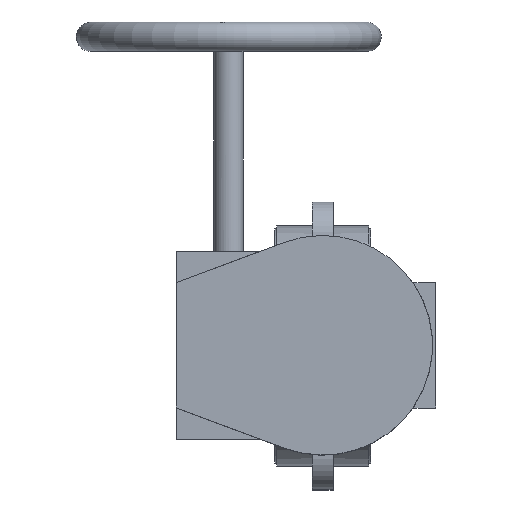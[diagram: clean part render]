
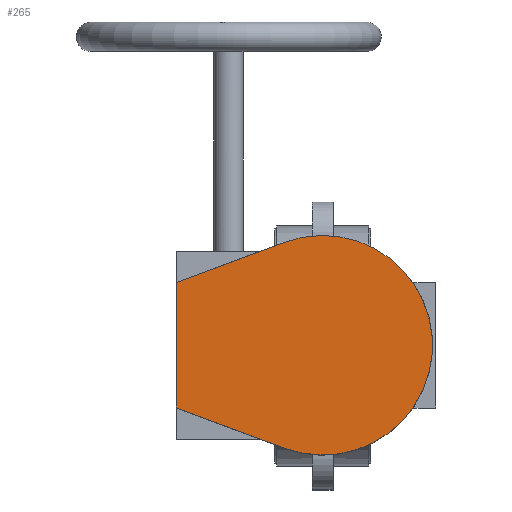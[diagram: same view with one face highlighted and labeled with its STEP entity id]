
A CAD part, top view. The second image highlights one B-rep face of the part: STEP entity #265.
In plain terms, the highlighted planar face has unit normal (0, 0, 1).
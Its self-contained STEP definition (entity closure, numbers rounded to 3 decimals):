
#265=ADVANCED_FACE('',(#6237),#6239,.T.);
#6237=FACE_BOUND('',#6238,.T.);
#6238=EDGE_LOOP('',(#10980,#10981,#10982,#10983));
#6239=PLANE('',#6240);
#6240=AXIS2_PLACEMENT_3D('',#6241,#6242,#6243);
#6241=CARTESIAN_POINT('',(0.,0.,215.));
#6242=DIRECTION('',(0.,0.,1.));
#6243=DIRECTION('',(0.,1.,0.));
#10980=ORIENTED_EDGE('',*,*,#14690,.T.);
#10981=ORIENTED_EDGE('',*,*,#14686,.T.);
#10982=ORIENTED_EDGE('',*,*,#14679,.T.);
#10983=ORIENTED_EDGE('',*,*,#14674,.T.);
#14674=EDGE_CURVE('',#16612,#16610,#16613,.T.);
#14679=EDGE_CURVE('',#16620,#16612,#16621,.T.);
#14686=EDGE_CURVE('',#16633,#16620,#16634,.T.);
#14690=EDGE_CURVE('',#16610,#16633,#16639,.T.);
#16610=VERTEX_POINT('',#19839);
#16612=VERTEX_POINT('',#19843);
#16613=LINE('',#19844,#19845);
#16620=VERTEX_POINT('',#19861);
#16621=LINE('',#19862,#19863);
#16633=VERTEX_POINT('',#19888);
#16634=LINE('',#19889,#19890);
#16639=CIRCLE('',#19902,52.5);
#19839=CARTESIAN_POINT('',(-18.284,-49.213,215.));
#19843=CARTESIAN_POINT('',(-70.,-30.,215.));
#19844=CARTESIAN_POINT('',(-70.,-30.,215.));
#19845=VECTOR('',#19846,1.);
#19846=DIRECTION('',(0.937,-0.348,0.));
#19861=CARTESIAN_POINT('',(-70.,30.,215.));
#19862=CARTESIAN_POINT('',(-70.,30.,215.));
#19863=VECTOR('',#19864,1.);
#19864=DIRECTION('',(0.,-1.,0.));
#19888=CARTESIAN_POINT('',(-18.284,49.213,215.));
#19889=CARTESIAN_POINT('',(-18.284,49.213,215.));
#19890=VECTOR('',#19891,1.);
#19891=DIRECTION('',(-0.937,-0.348,0.));
#19902=AXIS2_PLACEMENT_3D('',#19903,#19904,#19905);
#19903=CARTESIAN_POINT('',(0.,0.,215.));
#19904=DIRECTION('',(0.,0.,1.));
#19905=DIRECTION('',(-0.348,-0.937,0.));
